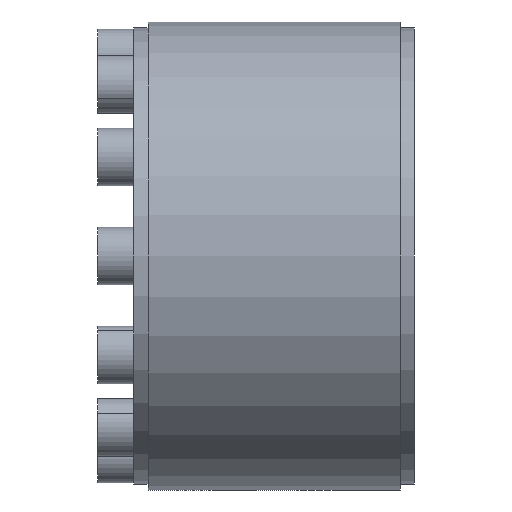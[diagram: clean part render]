
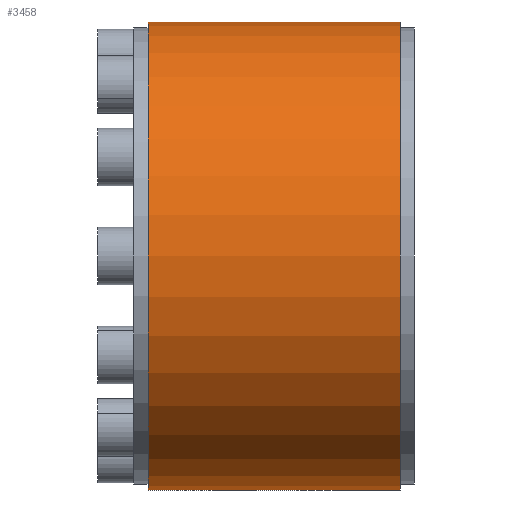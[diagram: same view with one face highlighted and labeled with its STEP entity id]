
A CAD part, front view. The second image highlights one B-rep face of the part: STEP entity #3458.
In plain terms, the highlighted cylindrical face has radius 65 mm (diameter 130 mm), a partial arc.
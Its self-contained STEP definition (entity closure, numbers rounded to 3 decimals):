
#1162 = DIRECTION ( 'NONE',  ( 0., 0., 1. ) ) ;
#1163 = DIRECTION ( 'NONE',  ( -1., 0., 0. ) ) ;
#1164 = CARTESIAN_POINT ( 'NONE',  ( 74., 0., 0. ) ) ;
#1165 = AXIS2_PLACEMENT_3D ( 'NONE', #1164, #1163, #1162 ) ;
#1166 = CIRCLE ( 'NONE', #1165, 65. ) ;
#1203 = DIRECTION ( 'NONE',  ( -1., 0., 0. ) ) ;
#1206 = CARTESIAN_POINT ( 'NONE',  ( 0., 0., 0. ) ) ;
#1207 = CARTESIAN_POINT ( 'NONE',  ( 4., 0., 0. ) ) ;
#1208 = CYLINDRICAL_SURFACE ( 'NONE', #1323, 65. ) ;
#1209 = FACE_OUTER_BOUND ( 'NONE', #3459, .T. ) ;
#1319 = DIRECTION ( 'NONE',  ( -1., 0., 0. ) ) ;
#1320 = AXIS2_PLACEMENT_3D ( 'NONE', #1207, #1319, #1355 ) ;
#1321 = CIRCLE ( 'NONE', #1320, 65. ) ;
#1322 = DIRECTION ( 'NONE',  ( 0., 0., 1. ) ) ;
#1323 = AXIS2_PLACEMENT_3D ( 'NONE', #1206, #1203, #1322 ) ;
#1355 = DIRECTION ( 'NONE',  ( 0., 0., 1. ) ) ;
#2800 = VERTEX_POINT ( 'NONE', #6686 ) ;
#2801 = VERTEX_POINT ( 'NONE', #6685 ) ;
#2803 = EDGE_CURVE ( 'NONE', #2801, #2804, #6684, .T. ) ;
#2804 = VERTEX_POINT ( 'NONE', #6680 ) ;
#2847 = VERTEX_POINT ( 'NONE', #6555 ) ;
#2849 = EDGE_CURVE ( 'NONE', #2800, #2847, #6554, .T. ) ;
#3458 = ADVANCED_FACE ( 'NONE', ( #1209 ), #1208, .T. ) ;
#3459 = EDGE_LOOP ( 'NONE', ( #3460, #3461, #3462, #3463 ) ) ;
#3460 = ORIENTED_EDGE ( 'NONE', *, *, #2803, .F. ) ;
#3461 = ORIENTED_EDGE ( 'NONE', *, *, #3493, .T. ) ;
#3462 = ORIENTED_EDGE ( 'NONE', *, *, #2849, .T. ) ;
#3463 = ORIENTED_EDGE ( 'NONE', *, *, #3464, .F. ) ;
#3464 = EDGE_CURVE ( 'NONE', #2804, #2847, #1321, .T. ) ;
#3493 = EDGE_CURVE ( 'NONE', #2801, #2800, #1166, .T. ) ;
#6551 = DIRECTION ( 'NONE',  ( -1., 0., 0. ) ) ;
#6552 = VECTOR ( 'NONE', #6551, 1000. ) ;
#6553 = CARTESIAN_POINT ( 'NONE',  ( 0., 0., 65. ) ) ;
#6554 = LINE ( 'NONE', #6553, #6552 ) ;
#6555 = CARTESIAN_POINT ( 'NONE',  ( 4., 0., 65. ) ) ;
#6680 = CARTESIAN_POINT ( 'NONE',  ( 4., 0., -65. ) ) ;
#6681 = DIRECTION ( 'NONE',  ( -1., 0., 0. ) ) ;
#6682 = VECTOR ( 'NONE', #6681, 1000. ) ;
#6683 = CARTESIAN_POINT ( 'NONE',  ( 0., 0., -65. ) ) ;
#6684 = LINE ( 'NONE', #6683, #6682 ) ;
#6685 = CARTESIAN_POINT ( 'NONE',  ( 74., 0., -65. ) ) ;
#6686 = CARTESIAN_POINT ( 'NONE',  ( 74., 0., 65. ) ) ;
